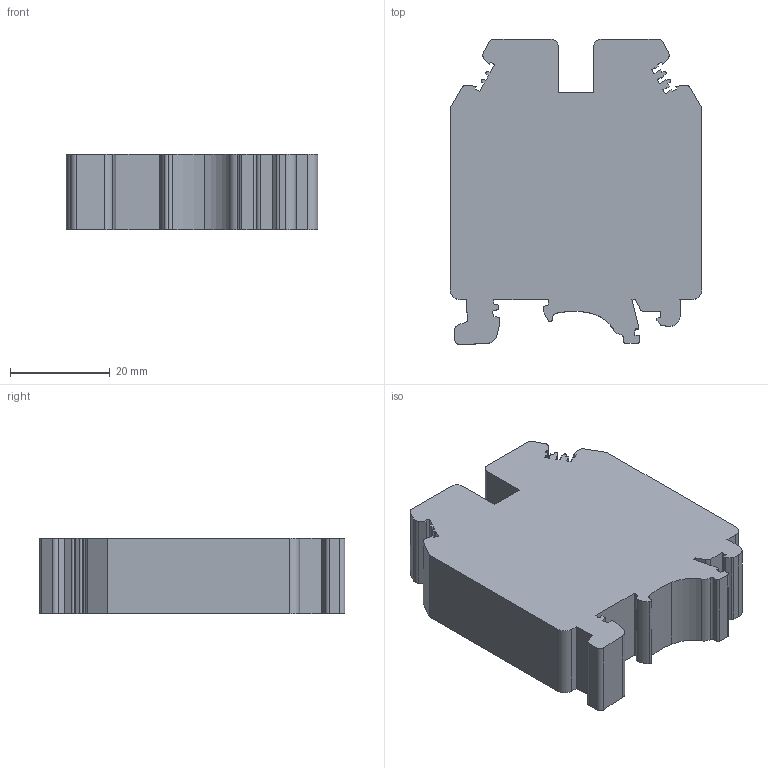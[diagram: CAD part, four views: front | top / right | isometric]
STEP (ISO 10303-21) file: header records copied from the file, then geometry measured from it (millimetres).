
FILE_DESCRIPTION(/* description */ (''),/* implementation_level */ '2;1');
FILE_NAME(/* name */ 'UT1-35.stp',/* time_stamp */ '2022-12-21T10:50:56+08:00',/* author */ (''),/* organization */ (''),/* preprocessor_version */ 'ST-DEVELOPER v16.7',/* originating_system */ 'SIEMENS PLM Software NX 12.0',/* authorisation */ '');
FILE_SCHEMA (('AUTOMOTIVE_DESIGN { 1 0 10303 214 3 1 1 1 }'));
Length unit declared in the file: millimetre
Products named in the file (1): _model1
Bounding box: 50.4 x 61.25 x 15.2 mm (x, y, z)
Volume: 39079.4 mm3; surface area: 9620.8 mm2
Topology: 1 solids, 1 shells, 128 faces, 378 edges, 252 vertices
Faces by surface type: plane 94, cylinder 34
Entity records: 4279 total; most frequent: CARTESIAN_POINT 774, ORIENTED_EDGE 756, DIRECTION 699, EDGE_CURVE 378, LINE 305, VECTOR 305, VERTEX_POINT 252, AXIS2_PLACEMENT_3D 197
